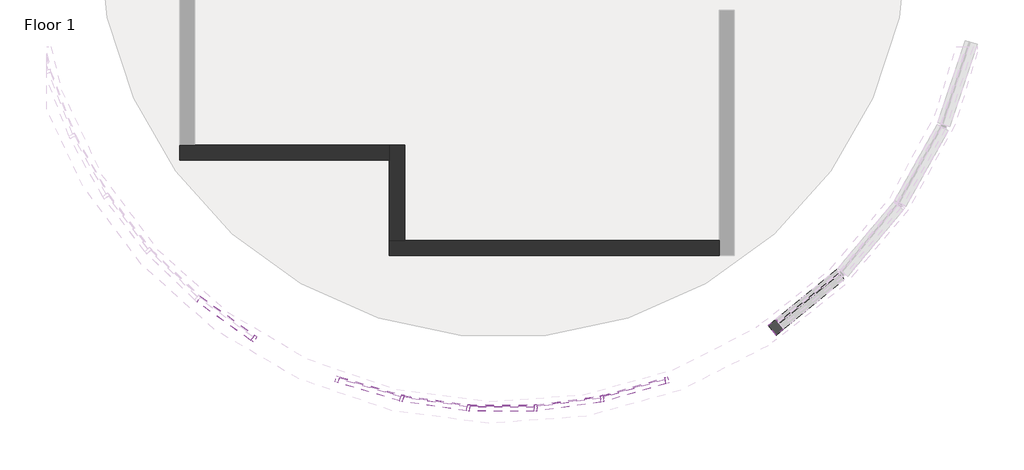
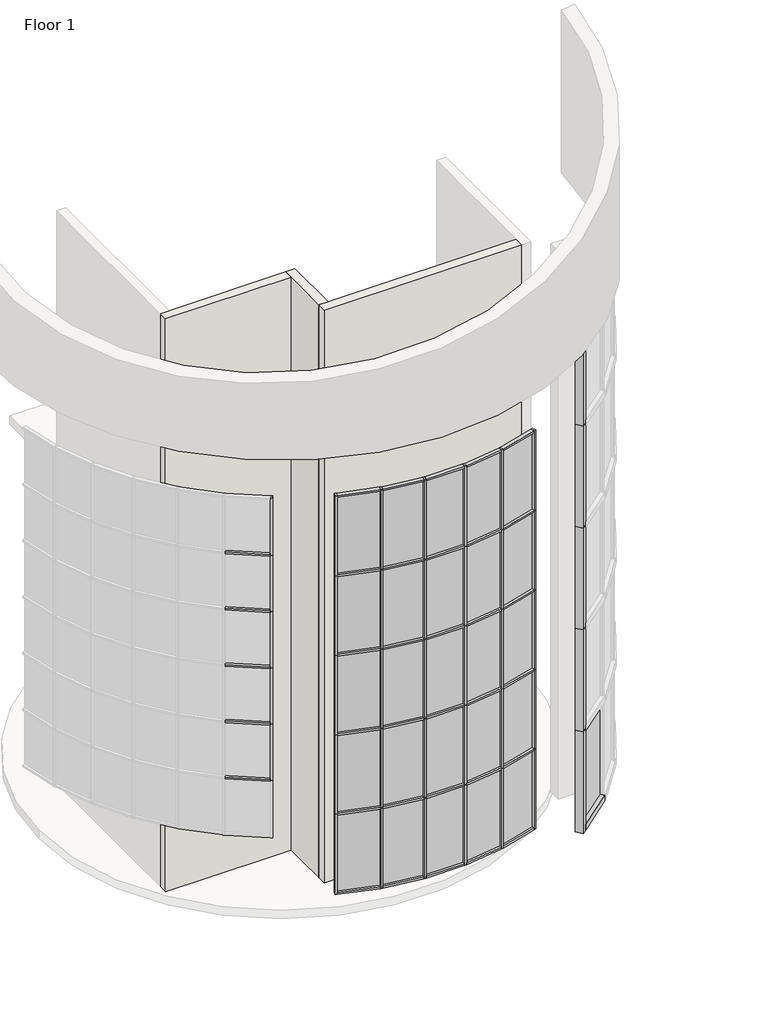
# One storey, part 5 of 11: 76 members, 26 plates, 3 walls.
"""IFC4 building model written with IfcOpenShell, lengths in millimetres."""

from ifc_helpers import new_model, si_unit, origin, place, context, project, spatial, faceted_brep, transform, mapped, element, save
from components import member_1ee05d72, member_0388ecb7, member_7395c1fc, member_652a6926, member_d66ac510, member_25577aa7, member_e54787da, member_d1cb1681, member_275a0903, member_ef0f639d, member_5da9506a, member_3a2f4316, member_60f5540e, member_ac1621ee, member_98c0bc9c, member_4370fb8a, system_panel_glazed_3a20483a, system_panel_glazed_3dc34c55, system_panel_glazed_36e52168

model = new_model("IFC4")

# Units and contexts
model_context = context("Model", 3, world=origin())
ifc_project = project(units=[si_unit("LENGTHUNIT", "METRE", prefix="MILLI")], contexts=[model_context])

# Site, building, storey
site = spatial("IfcSite", under=ifc_project)
building = spatial("IfcBuilding", under=site)
storey = spatial("IfcBuildingStorey", under=building, Name="Floor 1", Elevation=0.0)

# Members
placement = place(None, origin())
member_shape = member_1ee05d72(model_context)
element("IfcMember", 1, ObjectType="Rectangular Mullion1 : 2.5\" x 5\" rectangular", at=placement, inside=storey, context=model_context, shape_type="MappedRepresentation", body=[
    mapped(member_shape, transform((9626.5736728, 10239.6743059, 15849.6), x_axis=(0.0, 0.0, 1.0), y_axis=(0.2778402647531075, -0.9606272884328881, 0.0), z_axis=(0.9606272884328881, 0.2778402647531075, 0.0))),
])
element("IfcMember", 2, ObjectType="Rectangular Mullion1 : 2.5\" x 5\" rectangular", at=placement, inside=storey, context=model_context, shape_type="MappedRepresentation", body=[
    mapped(member_shape, transform((2992.9067416, 10256.328301, 1524.0), x_axis=(0.0, 0.0, -1.0), y_axis=(-0.2826600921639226, -0.9592201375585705, 0.0), z_axis=(-0.9592201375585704, 0.28266009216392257, 0.0))),
])
member_2_shape = member_0388ecb7(model_context)
element("IfcMember", 3, ObjectType="Rectangular Mullion1 : 2.5\" x 5\" rectangular", at=placement, inside=storey, context=model_context, shape_type="MappedRepresentation", body=[
    mapped(member_2_shape, transform((4242.5484, 9888.0876725, 15849.6), x_axis=(0.0, 0.0, 1.0), y_axis=(-0.2826600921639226, -0.9592201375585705, 0.0), z_axis=(0.9592201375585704, -0.28266009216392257, 0.0))),
])
member_3_shape = member_7395c1fc(model_context)
element("IfcMember", 4, ObjectType="Rectangular Mullion1 : 2.5\" x 5\" rectangular", at=placement, inside=storey, context=model_context, shape_type="MappedRepresentation", body=[
    mapped(member_3_shape, transform((5593.7638345, 9687.9803536, 15849.6), x_axis=(0.0, 0.0, 1.0), y_axis=(-0.1432223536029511, -0.9896905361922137, 0.0), z_axis=(0.9896905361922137, -0.1432223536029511, 0.0))),
])
element("IfcMember", 5, ObjectType="Rectangular Mullion1 : 2.5\" x 5\" rectangular", at=placement, inside=storey, context=model_context, shape_type="MappedRepresentation", body=[
    mapped(member_3_shape, transform((6959.7006673, 9680.082711, 15849.6), x_axis=(0.0, 0.0, 1.0), y_axis=(-0.0025105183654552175, -0.9999968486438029, 0.0), z_axis=(0.9999968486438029, -0.0025105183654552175, 0.0))),
])
element("IfcMember", 6, ObjectType="Rectangular Mullion1 : 2.5\" x 5\" rectangular", at=placement, inside=storey, context=model_context, shape_type="MappedRepresentation", body=[
    mapped(member_3_shape, transform((8313.1537957, 9864.5018892, 15849.6), x_axis=(0.0, 0.0, 1.0), y_axis=(0.13825129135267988, -0.9903971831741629, 0.0), z_axis=(0.9903971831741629, 0.13825129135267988, 0.0))),
])
element("IfcMember", 7, ObjectType="Rectangular Mullion1 : 2.5\" x 5\" rectangular", at=placement, inside=storey, context=model_context, shape_type="MappedRepresentation", body=[
    mapped(member_3_shape, transform((4304.4263139, 9874.5659049, 1524.0), x_axis=(0.0, 0.0, -1.0), y_axis=(-0.14322235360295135, -0.9896905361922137, 0.0), z_axis=(-0.9896905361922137, 0.14322235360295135, 0.0))),
])
element("IfcMember", 8, ObjectType="Rectangular Mullion1 : 2.5\" x 5\" rectangular", at=placement, inside=storey, context=model_context, shape_type="MappedRepresentation", body=[
    mapped(member_3_shape, transform((5656.9364089, 9683.3533349, 1524.0), x_axis=(0.0, 0.0, -1.0), y_axis=(-0.0025105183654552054, -0.9999968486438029, 0.0), z_axis=(-0.9999968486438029, 0.0025105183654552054, 0.0))),
])
element("IfcMember", 9, ObjectType="Rectangular Mullion1 : 2.5\" x 5\" rectangular", at=placement, inside=storey, context=model_context, shape_type="MappedRepresentation", body=[
    mapped(member_3_shape, transform((7022.8956778, 9684.3924805, 1524.0), x_axis=(0.0, 0.0, -1.0), y_axis=(0.13825129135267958, -0.990397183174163, 0.0), z_axis=(-0.990397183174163, -0.13825129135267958, 0.0))),
])
element("IfcMember", 10, ObjectType="Rectangular Mullion1 : 2.5\" x 5\" rectangular", at=placement, inside=storey, context=model_context, shape_type="MappedRepresentation", body=[
    mapped(member_2_shape, transform((8375.0988227, 9877.7127961, 1524.0), x_axis=(0.0, 0.0, -1.0), y_axis=(0.2778402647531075, -0.9606272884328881, 0.0), z_axis=(-0.9606272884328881, -0.2778402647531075, 0.0))),
])
member_4_shape = member_652a6926(model_context)
element("IfcMember", 11, ObjectType="Rectangular Mullion1 : 2.5\" x 5\" rectangular", at=placement, inside=storey, context=model_context, shape_type="MappedRepresentation", body=[
    mapped(member_4_shape, transform((4242.5484, 9888.0876725, 4408.17), x_axis=(0.0, 0.0, 1.0), y_axis=(-0.2826600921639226, -0.9592201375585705, 0.0), z_axis=(0.9592201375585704, -0.28266009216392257, 0.0))),
])
member_5_shape = member_d66ac510(model_context)
element("IfcMember", 12, ObjectType="Rectangular Mullion1 : 2.5\" x 5\" rectangular", at=placement, inside=storey, context=model_context, shape_type="MappedRepresentation", body=[
    mapped(member_5_shape, transform((5593.7638345, 9687.9803536, 4408.17), x_axis=(0.0, 0.0, 1.0), y_axis=(-0.14322235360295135, -0.9896905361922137, 0.0), z_axis=(0.9896905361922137, -0.14322235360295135, 0.0))),
])
element("IfcMember", 13, ObjectType="Rectangular Mullion1 : 2.5\" x 5\" rectangular", at=placement, inside=storey, context=model_context, shape_type="MappedRepresentation", body=[
    mapped(member_5_shape, transform((6959.7006673, 9680.082711, 4408.17), x_axis=(0.0, 0.0, 1.0), y_axis=(-0.0025105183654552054, -0.9999968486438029, 0.0), z_axis=(0.9999968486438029, -0.0025105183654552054, 0.0))),
])
element("IfcMember", 14, ObjectType="Rectangular Mullion1 : 2.5\" x 5\" rectangular", at=placement, inside=storey, context=model_context, shape_type="MappedRepresentation", body=[
    mapped(member_5_shape, transform((8313.1537957, 9864.5018892, 4408.17), x_axis=(0.0, 0.0, 1.0), y_axis=(0.13825129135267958, -0.990397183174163, 0.0), z_axis=(0.990397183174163, 0.13825129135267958, 0.0))),
])
member_6_shape = member_25577aa7(model_context)
element("IfcMember", 15, ObjectType="Rectangular Mullion1 : 2.5\" x 5\" rectangular", at=placement, inside=storey, context=model_context, shape_type="MappedRepresentation", body=[
    mapped(member_6_shape, transform((9626.5736728, 10239.6743059, 4408.17), x_axis=(0.0, 0.0, 1.0), y_axis=(0.2778402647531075, -0.9606272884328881, 0.0), z_axis=(0.9606272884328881, 0.2778402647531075, 0.0))),
])
element("IfcMember", 16, ObjectType="Rectangular Mullion1 : 2.5\" x 5\" rectangular", at=placement, inside=storey, context=model_context, shape_type="MappedRepresentation", body=[
    mapped(member_4_shape, transform((4242.5484, 9888.0876725, 7260.59), x_axis=(0.0, 0.0, 1.0), y_axis=(-0.2826600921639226, -0.9592201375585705, 0.0), z_axis=(0.9592201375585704, -0.28266009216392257, 0.0))),
])
element("IfcMember", 17, ObjectType="Rectangular Mullion1 : 2.5\" x 5\" rectangular", at=placement, inside=storey, context=model_context, shape_type="MappedRepresentation", body=[
    mapped(member_4_shape, transform((4242.5484, 9888.0876725, 10113.01), x_axis=(0.0, 0.0, 1.0), y_axis=(-0.2826600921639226, -0.9592201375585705, 0.0), z_axis=(0.9592201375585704, -0.28266009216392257, 0.0))),
])
element("IfcMember", 18, ObjectType="Rectangular Mullion1 : 2.5\" x 5\" rectangular", at=placement, inside=storey, context=model_context, shape_type="MappedRepresentation", body=[
    mapped(member_5_shape, transform((5593.7638345, 9687.9803536, 7260.59), x_axis=(0.0, 0.0, 1.0), y_axis=(-0.14322235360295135, -0.9896905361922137, 0.0), z_axis=(0.9896905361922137, -0.14322235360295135, 0.0))),
])
element("IfcMember", 19, ObjectType="Rectangular Mullion1 : 2.5\" x 5\" rectangular", at=placement, inside=storey, context=model_context, shape_type="MappedRepresentation", body=[
    mapped(member_5_shape, transform((6959.7006673, 9680.082711, 7260.59), x_axis=(0.0, 0.0, 1.0), y_axis=(-0.0025105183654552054, -0.9999968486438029, 0.0), z_axis=(0.9999968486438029, -0.0025105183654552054, 0.0))),
])
element("IfcMember", 20, ObjectType="Rectangular Mullion1 : 2.5\" x 5\" rectangular", at=placement, inside=storey, context=model_context, shape_type="MappedRepresentation", body=[
    mapped(member_5_shape, transform((8313.1537957, 9864.5018892, 7260.59), x_axis=(0.0, 0.0, 1.0), y_axis=(0.13825129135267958, -0.990397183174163, 0.0), z_axis=(0.990397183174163, 0.13825129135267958, 0.0))),
])
element("IfcMember", 21, ObjectType="Rectangular Mullion1 : 2.5\" x 5\" rectangular", at=placement, inside=storey, context=model_context, shape_type="MappedRepresentation", body=[
    mapped(member_5_shape, transform((5593.7638345, 9687.9803536, 10113.01), x_axis=(0.0, 0.0, 1.0), y_axis=(-0.14322235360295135, -0.9896905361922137, 0.0), z_axis=(0.9896905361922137, -0.14322235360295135, 0.0))),
])
element("IfcMember", 22, ObjectType="Rectangular Mullion1 : 2.5\" x 5\" rectangular", at=placement, inside=storey, context=model_context, shape_type="MappedRepresentation", body=[
    mapped(member_5_shape, transform((6959.7006673, 9680.082711, 10113.01), x_axis=(0.0, 0.0, 1.0), y_axis=(-0.0025105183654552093, -0.9999968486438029, 0.0), z_axis=(0.9999968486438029, -0.0025105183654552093, 0.0))),
])
element("IfcMember", 23, ObjectType="Rectangular Mullion1 : 2.5\" x 5\" rectangular", at=placement, inside=storey, context=model_context, shape_type="MappedRepresentation", body=[
    mapped(member_5_shape, transform((8313.1537957, 9864.5018892, 10113.01), x_axis=(0.0, 0.0, 1.0), y_axis=(0.13825129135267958, -0.990397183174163, 0.0), z_axis=(0.990397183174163, 0.13825129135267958, 0.0))),
])
element("IfcMember", 24, ObjectType="Rectangular Mullion1 : 2.5\" x 5\" rectangular", at=placement, inside=storey, context=model_context, shape_type="MappedRepresentation", body=[
    mapped(member_6_shape, transform((9626.5736728, 10239.6743059, 7260.59), x_axis=(0.0, 0.0, 1.0), y_axis=(0.2778402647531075, -0.9606272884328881, 0.0), z_axis=(0.9606272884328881, 0.2778402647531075, 0.0))),
])
element("IfcMember", 25, ObjectType="Rectangular Mullion1 : 2.5\" x 5\" rectangular", at=placement, inside=storey, context=model_context, shape_type="MappedRepresentation", body=[
    mapped(member_6_shape, transform((9626.5736728, 10239.6743059, 10113.01), x_axis=(0.0, 0.0, 1.0), y_axis=(0.2778402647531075, -0.9606272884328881, 0.0), z_axis=(0.9606272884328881, 0.2778402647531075, 0.0))),
])
element("IfcMember", 26, ObjectType="Rectangular Mullion1 : 2.5\" x 5\" rectangular", at=placement, inside=storey, context=model_context, shape_type="MappedRepresentation", body=[
    mapped(member_4_shape, transform((4242.5484, 9888.0876725, 12965.43), x_axis=(0.0, 0.0, 1.0), y_axis=(-0.2826600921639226, -0.9592201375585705, 0.0), z_axis=(0.9592201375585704, -0.28266009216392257, 0.0))),
])
element("IfcMember", 27, ObjectType="Rectangular Mullion1 : 2.5\" x 5\" rectangular", at=placement, inside=storey, context=model_context, shape_type="MappedRepresentation", body=[
    mapped(member_5_shape, transform((5593.7638345, 9687.9803536, 12965.43), x_axis=(0.0, 0.0, 1.0), y_axis=(-0.14322235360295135, -0.9896905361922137, 0.0), z_axis=(0.9896905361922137, -0.14322235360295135, 0.0))),
])
element("IfcMember", 28, ObjectType="Rectangular Mullion1 : 2.5\" x 5\" rectangular", at=placement, inside=storey, context=model_context, shape_type="MappedRepresentation", body=[
    mapped(member_5_shape, transform((6959.7006673, 9680.082711, 12965.43), x_axis=(0.0, 0.0, 1.0), y_axis=(-0.0025105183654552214, -0.9999968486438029, 0.0), z_axis=(0.9999968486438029, -0.0025105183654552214, 0.0))),
])
element("IfcMember", 29, ObjectType="Rectangular Mullion1 : 2.5\" x 5\" rectangular", at=placement, inside=storey, context=model_context, shape_type="MappedRepresentation", body=[
    mapped(member_5_shape, transform((8313.1537957, 9864.5018892, 12965.43), x_axis=(0.0, 0.0, 1.0), y_axis=(0.13825129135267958, -0.990397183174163, 0.0), z_axis=(0.990397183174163, 0.13825129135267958, 0.0))),
])
element("IfcMember", 30, ObjectType="Rectangular Mullion1 : 2.5\" x 5\" rectangular", at=placement, inside=storey, context=model_context, shape_type="MappedRepresentation", body=[
    mapped(member_6_shape, transform((9626.5736728, 10239.6743059, 12965.43), x_axis=(0.0, 0.0, 1.0), y_axis=(0.2778402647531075, -0.9606272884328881, 0.0), z_axis=(0.9606272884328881, 0.2778402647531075, 0.0))),
])
member_7_shape = member_e54787da(model_context)
element("IfcMember", 31, ObjectType="Rectangular Mullion1 : 2.5\" x 5\" rectangular", at=placement, inside=storey, context=model_context, shape_type="MappedRepresentation", body=[
    mapped(member_7_shape, transform((4273.0036394, 9879.1132146, 1524.0), x_axis=(0.9771213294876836, -0.21268264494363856, 0.0), y_axis=(-0.21268264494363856, -0.9771213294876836, 0.0), z_axis=(0.0, 0.0, -1.0))),
])
element("IfcMember", 32, ObjectType="Rectangular Mullion1 : 2.5\" x 5\" rectangular", at=placement, inside=storey, context=model_context, shape_type="MappedRepresentation", body=[
    mapped(member_7_shape, transform((5625.186509, 9683.4330439, 1524.0), x_axis=(0.9973283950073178, -0.07304842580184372, 0.0), y_axis=(-0.07304842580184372, -0.9973283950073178, 0.0), z_axis=(0.0, 0.0, -1.0))),
])
element("IfcMember", 33, ObjectType="Rectangular Mullion1 : 2.5\" x 5\" rectangular", at=placement, inside=storey, context=model_context, shape_type="MappedRepresentation", body=[
    mapped(member_7_shape, transform((6991.4505673, 9680.003002, 1524.0), x_axis=(0.9976826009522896, 0.06803989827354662, 0.0), y_axis=(0.06803989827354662, -0.9976826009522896, 0.0), z_axis=(0.0, 0.0, -1.0))),
])
element("IfcMember", 34, ObjectType="Rectangular Mullion1 : 2.5\" x 5\" rectangular", at=placement, inside=storey, context=model_context, shape_type="MappedRepresentation", body=[
    mapped(member_7_shape, transform((8344.5989063, 9868.8913677, 1524.0), x_axis=(0.9781768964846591, 0.20777381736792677, 0.0), y_axis=(0.20777381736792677, -0.9781768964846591, 0.0), z_axis=(0.0, 0.0, -1.0))),
])
member_8_shape = member_d1cb1681(model_context)
element("IfcMember", 35, ObjectType="Rectangular Mullion1 : 2.5\" x 5\" rectangular", at=placement, inside=storey, context=model_context, shape_type="MappedRepresentation", body=[
    mapped(member_8_shape, transform((4273.0036394, 9879.1132146, 4408.17), x_axis=(0.9771213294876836, -0.21268264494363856, 0.0), y_axis=(-0.21268264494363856, -0.9771213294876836, 0.0), z_axis=(0.0, 0.0, -1.0))),
])
element("IfcMember", 36, ObjectType="Rectangular Mullion1 : 2.5\" x 5\" rectangular", at=placement, inside=storey, context=model_context, shape_type="MappedRepresentation", body=[
    mapped(member_8_shape, transform((5625.186509, 9683.4330439, 4408.17), x_axis=(0.9973283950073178, -0.07304842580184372, 0.0), y_axis=(-0.07304842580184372, -0.9973283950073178, 0.0), z_axis=(0.0, 0.0, -1.0))),
])
element("IfcMember", 37, ObjectType="Rectangular Mullion1 : 2.5\" x 5\" rectangular", at=placement, inside=storey, context=model_context, shape_type="MappedRepresentation", body=[
    mapped(member_8_shape, transform((6991.4505673, 9680.003002, 4408.17), x_axis=(0.9976826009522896, 0.06803989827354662, 0.0), y_axis=(0.06803989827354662, -0.9976826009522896, 0.0), z_axis=(0.0, 0.0, -1.0))),
])
element("IfcMember", 38, ObjectType="Rectangular Mullion1 : 2.5\" x 5\" rectangular", at=placement, inside=storey, context=model_context, shape_type="MappedRepresentation", body=[
    mapped(member_8_shape, transform((8344.5989063, 9868.8913677, 4408.17), x_axis=(0.9781768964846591, 0.20777381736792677, 0.0), y_axis=(0.20777381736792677, -0.9781768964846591, 0.0), z_axis=(0.0, 0.0, -1.0))),
])
element("IfcMember", 39, ObjectType="Rectangular Mullion1 : 2.5\" x 5\" rectangular", at=placement, inside=storey, context=model_context, shape_type="MappedRepresentation", body=[
    mapped(member_8_shape, transform((4273.0036394, 9879.1132146, 7260.59), x_axis=(0.9771213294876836, -0.21268264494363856, 0.0), y_axis=(-0.21268264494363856, -0.9771213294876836, 0.0), z_axis=(0.0, 0.0, -1.0))),
])
element("IfcMember", 40, ObjectType="Rectangular Mullion1 : 2.5\" x 5\" rectangular", at=placement, inside=storey, context=model_context, shape_type="MappedRepresentation", body=[
    mapped(member_8_shape, transform((5625.186509, 9683.4330439, 7260.59), x_axis=(0.9973283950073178, -0.07304842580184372, 0.0), y_axis=(-0.07304842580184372, -0.9973283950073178, 0.0), z_axis=(0.0, 0.0, -1.0))),
])
element("IfcMember", 41, ObjectType="Rectangular Mullion1 : 2.5\" x 5\" rectangular", at=placement, inside=storey, context=model_context, shape_type="MappedRepresentation", body=[
    mapped(member_8_shape, transform((6991.4505673, 9680.003002, 7260.59), x_axis=(0.9976826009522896, 0.06803989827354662, 0.0), y_axis=(0.06803989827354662, -0.9976826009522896, 0.0), z_axis=(0.0, 0.0, -1.0))),
])
element("IfcMember", 42, ObjectType="Rectangular Mullion1 : 2.5\" x 5\" rectangular", at=placement, inside=storey, context=model_context, shape_type="MappedRepresentation", body=[
    mapped(member_8_shape, transform((8344.5989063, 9868.8913677, 7260.59), x_axis=(0.9781768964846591, 0.20777381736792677, 0.0), y_axis=(0.20777381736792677, -0.9781768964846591, 0.0), z_axis=(0.0, 0.0, -1.0))),
])
element("IfcMember", 43, ObjectType="Rectangular Mullion1 : 2.5\" x 5\" rectangular", at=placement, inside=storey, context=model_context, shape_type="MappedRepresentation", body=[
    mapped(member_8_shape, transform((4273.0036394, 9879.1132146, 10113.01), x_axis=(0.9771213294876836, -0.21268264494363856, 0.0), y_axis=(-0.21268264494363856, -0.9771213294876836, 0.0), z_axis=(0.0, 0.0, -1.0))),
])
element("IfcMember", 44, ObjectType="Rectangular Mullion1 : 2.5\" x 5\" rectangular", at=placement, inside=storey, context=model_context, shape_type="MappedRepresentation", body=[
    mapped(member_8_shape, transform((5625.186509, 9683.4330439, 10113.01), x_axis=(0.9973283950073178, -0.07304842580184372, 0.0), y_axis=(-0.07304842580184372, -0.9973283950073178, 0.0), z_axis=(0.0, 0.0, -1.0))),
])
element("IfcMember", 45, ObjectType="Rectangular Mullion1 : 2.5\" x 5\" rectangular", at=placement, inside=storey, context=model_context, shape_type="MappedRepresentation", body=[
    mapped(member_8_shape, transform((6991.4505673, 9680.003002, 10113.01), x_axis=(0.9976826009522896, 0.06803989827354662, 0.0), y_axis=(0.06803989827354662, -0.9976826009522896, 0.0), z_axis=(0.0, 0.0, -1.0))),
])
element("IfcMember", 46, ObjectType="Rectangular Mullion1 : 2.5\" x 5\" rectangular", at=placement, inside=storey, context=model_context, shape_type="MappedRepresentation", body=[
    mapped(member_8_shape, transform((8344.5989063, 9868.8913677, 10113.01), x_axis=(0.9781768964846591, 0.20777381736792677, 0.0), y_axis=(0.20777381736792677, -0.9781768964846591, 0.0), z_axis=(0.0, 0.0, -1.0))),
])
element("IfcMember", 47, ObjectType="Rectangular Mullion1 : 2.5\" x 5\" rectangular", at=placement, inside=storey, context=model_context, shape_type="MappedRepresentation", body=[
    mapped(member_7_shape, transform((4273.0036394, 9879.1132146, 12965.43), x_axis=(0.9771213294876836, -0.21268264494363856, 0.0), y_axis=(-0.21268264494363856, -0.9771213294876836, 0.0), z_axis=(0.0, 0.0, -1.0))),
])
element("IfcMember", 48, ObjectType="Rectangular Mullion1 : 2.5\" x 5\" rectangular", at=placement, inside=storey, context=model_context, shape_type="MappedRepresentation", body=[
    mapped(member_7_shape, transform((5625.186509, 9683.4330439, 12965.43), x_axis=(0.9973283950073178, -0.07304842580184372, 0.0), y_axis=(-0.07304842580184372, -0.9973283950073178, 0.0), z_axis=(0.0, 0.0, -1.0))),
])
element("IfcMember", 49, ObjectType="Rectangular Mullion1 : 2.5\" x 5\" rectangular", at=placement, inside=storey, context=model_context, shape_type="MappedRepresentation", body=[
    mapped(member_7_shape, transform((6991.4505673, 9680.003002, 12965.43), x_axis=(0.9976826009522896, 0.06803989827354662, 0.0), y_axis=(0.06803989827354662, -0.9976826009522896, 0.0), z_axis=(0.0, 0.0, -1.0))),
])
element("IfcMember", 50, ObjectType="Rectangular Mullion1 : 2.5\" x 5\" rectangular", at=placement, inside=storey, context=model_context, shape_type="MappedRepresentation", body=[
    mapped(member_7_shape, transform((8344.5989063, 9868.8913677, 12965.43), x_axis=(0.9781768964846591, 0.20777381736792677, 0.0), y_axis=(0.20777381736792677, -0.9781768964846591, 0.0), z_axis=(0.0, 0.0, -1.0))),
])
member_9_shape = member_275a0903(model_context)
element("IfcMember", 51, ObjectType="Rectangular Mullion1 : 2.5\" x 5\" rectangular", at=placement, inside=storey, context=model_context, shape_type="MappedRepresentation", body=[
    mapped(member_9_shape, transform((1235.4610146, 11112.8592493, 5710.7666667), x_axis=(0.0, 0.0, 1.0), y_axis=(-0.5828238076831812, -0.8125985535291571, 0.0), z_axis=(0.8125985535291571, -0.5828238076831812, 0.0))),
])
element("IfcMember", 52, ObjectType="Rectangular Mullion1 : 2.5\" x 5\" rectangular", at=placement, inside=storey, context=model_context, shape_type="MappedRepresentation", body=[
    mapped(member_9_shape, transform((1235.4610146, 11112.8592493, 7732.1833333), x_axis=(0.0, 0.0, 1.0), y_axis=(-0.5828238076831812, -0.8125985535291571, 0.0), z_axis=(0.8125985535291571, -0.5828238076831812, 0.0))),
])
element("IfcMember", 53, ObjectType="Rectangular Mullion1 : 2.5\" x 5\" rectangular", at=placement, inside=storey, context=model_context, shape_type="MappedRepresentation", body=[
    mapped(member_9_shape, transform((1235.4610146, 11112.8592493, 9753.6), x_axis=(0.0, 0.0, 1.0), y_axis=(-0.5828238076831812, -0.8125985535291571, 0.0), z_axis=(0.8125985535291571, -0.5828238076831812, 0.0))),
])
element("IfcMember", 54, ObjectType="Rectangular Mullion1 : 2.5\" x 5\" rectangular", at=placement, inside=storey, context=model_context, shape_type="MappedRepresentation", body=[
    mapped(member_9_shape, transform((1235.4610146, 11112.8592493, 11775.0166667), x_axis=(0.0, 0.0, 1.0), y_axis=(-0.5828238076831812, -0.8125985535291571, 0.0), z_axis=(0.8125985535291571, -0.5828238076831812, 0.0))),
])
element("IfcMember", 55, ObjectType="Rectangular Mullion1 : 2.5\" x 5\" rectangular", at=placement, inside=storey, context=model_context, shape_type="MappedRepresentation", body=[
    mapped(member_9_shape, transform((1235.4610146, 11112.8592493, 13796.4333333), x_axis=(0.0, 0.0, 1.0), y_axis=(-0.5828238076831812, -0.8125985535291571, 0.0), z_axis=(0.8125985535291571, -0.5828238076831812, 0.0))),
])
member_10_shape = member_ef0f639d(model_context)
element("IfcMember", 56, ObjectType="Rectangular Mullion1 : 2.5\" x 5\" rectangular", at=placement, inside=storey, context=model_context, shape_type="MappedRepresentation", body=[
    mapped(member_10_shape, transform((9687.5735056, 10257.3171627, 1524.0), x_axis=(0.9606272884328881, 0.2778402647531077, 0.0), y_axis=(0.2778402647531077, -0.9606272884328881, 0.0), z_axis=(0.0, 0.0, -1.0))),
])
element("IfcMember", 57, ObjectType="Rectangular Mullion1 : 2.5\" x 5\" rectangular", at=placement, inside=storey, context=model_context, shape_type="MappedRepresentation", body=[
    mapped(member_10_shape, transform((2931.9962628, 10274.2772169, 15849.6), x_axis=(-0.9592201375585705, 0.2826600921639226, 0.0), y_axis=(-0.2826600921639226, -0.9592201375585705, 0.0), z_axis=(0.0, 0.0, 1.0))),
])
member_11_shape = member_5da9506a(model_context)
element("IfcMember", 58, ObjectType="Rectangular Mullion1 : 2.5\" x 5\" rectangular", at=placement, inside=storey, context=model_context, shape_type="MappedRepresentation", body=[
    mapped(member_11_shape, transform((9687.5735056, 10257.3171627, 4408.17), x_axis=(0.9606272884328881, 0.27784026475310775, 0.0), y_axis=(0.27784026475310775, -0.9606272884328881, 0.0), z_axis=(0.0, 0.0, -1.0))),
])
element("IfcMember", 59, ObjectType="Rectangular Mullion1 : 2.5\" x 5\" rectangular", at=placement, inside=storey, context=model_context, shape_type="MappedRepresentation", body=[
    mapped(member_11_shape, transform((9687.5735056, 10257.3171627, 7260.59), x_axis=(0.9606272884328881, 0.27784026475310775, 0.0), y_axis=(0.27784026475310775, -0.9606272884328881, 0.0), z_axis=(0.0, 0.0, -1.0))),
])
element("IfcMember", 60, ObjectType="Rectangular Mullion1 : 2.5\" x 5\" rectangular", at=placement, inside=storey, context=model_context, shape_type="MappedRepresentation", body=[
    mapped(member_11_shape, transform((9687.5735056, 10257.3171627, 10113.01), x_axis=(0.9606272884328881, 0.27784026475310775, 0.0), y_axis=(0.27784026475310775, -0.9606272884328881, 0.0), z_axis=(0.0, 0.0, -1.0))),
])
element("IfcMember", 61, ObjectType="Rectangular Mullion1 : 2.5\" x 5\" rectangular", at=placement, inside=storey, context=model_context, shape_type="MappedRepresentation", body=[
    mapped(member_10_shape, transform((9687.5735056, 10257.3171627, 12965.43), x_axis=(0.9606272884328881, 0.2778402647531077, 0.0), y_axis=(0.2778402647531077, -0.9606272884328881, 0.0), z_axis=(0.0, 0.0, -1.0))),
])
element("IfcMember", 62, ObjectType="Rectangular Mullion1 : 2.5\" x 5\" rectangular", at=placement, inside=storey, context=model_context, shape_type="MappedRepresentation", body=[
    mapped(member_10_shape, transform((2931.9962628, 10274.2772169, 4408.17), x_axis=(-0.9592201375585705, 0.2826600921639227, 0.0), y_axis=(-0.2826600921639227, -0.9592201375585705, 0.0), z_axis=(0.0, 0.0, 1.0))),
])
element("IfcMember", 63, ObjectType="Rectangular Mullion1 : 2.5\" x 5\" rectangular", at=placement, inside=storey, context=model_context, shape_type="MappedRepresentation", body=[
    mapped(member_11_shape, transform((2931.9962628, 10274.2772169, 7260.59), x_axis=(-0.9592201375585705, 0.2826600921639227, 0.0), y_axis=(-0.2826600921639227, -0.9592201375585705, 0.0), z_axis=(0.0, 0.0, 1.0))),
])
element("IfcMember", 64, ObjectType="Rectangular Mullion1 : 2.5\" x 5\" rectangular", at=placement, inside=storey, context=model_context, shape_type="MappedRepresentation", body=[
    mapped(member_11_shape, transform((2931.9962628, 10274.2772169, 10113.01), x_axis=(-0.9592201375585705, 0.2826600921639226, 0.0), y_axis=(-0.2826600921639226, -0.9592201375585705, 0.0), z_axis=(0.0, 0.0, 1.0))),
])
element("IfcMember", 65, ObjectType="Rectangular Mullion1 : 2.5\" x 5\" rectangular", at=placement, inside=storey, context=model_context, shape_type="MappedRepresentation", body=[
    mapped(member_11_shape, transform((2931.9962628, 10274.2772169, 12965.43), x_axis=(-0.9592201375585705, 0.2826600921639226, 0.0), y_axis=(-0.2826600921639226, -0.9592201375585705, 0.0), z_axis=(0.0, 0.0, 1.0))),
])
member_12_shape = member_3a2f4316(model_context)
element("IfcMember", 66, ObjectType="Rectangular Mullion1 : 2.5\" x 5\" rectangular", at=placement, inside=storey, context=model_context, shape_type="MappedRepresentation", body=[
    mapped(member_12_shape, transform((1287.0610227, 11075.8499375, 5710.7666667), x_axis=(0.8125985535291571, -0.5828238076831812, 0.0), y_axis=(-0.5828238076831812, -0.8125985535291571, 0.0), z_axis=(0.0, 0.0, -1.0))),
])
element("IfcMember", 67, ObjectType="Rectangular Mullion1 : 2.5\" x 5\" rectangular", at=placement, inside=storey, context=model_context, shape_type="MappedRepresentation", body=[
    mapped(member_12_shape, transform((1287.0610227, 11075.8499375, 7732.1833333), x_axis=(0.8125985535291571, -0.5828238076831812, 0.0), y_axis=(-0.5828238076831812, -0.8125985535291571, 0.0), z_axis=(0.0, 0.0, -1.0))),
])
element("IfcMember", 68, ObjectType="Rectangular Mullion1 : 2.5\" x 5\" rectangular", at=placement, inside=storey, context=model_context, shape_type="MappedRepresentation", body=[
    mapped(member_12_shape, transform((1287.0610227, 11075.8499375, 9753.6), x_axis=(0.812598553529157, -0.5828238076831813, 0.0), y_axis=(-0.5828238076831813, -0.812598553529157, 0.0), z_axis=(0.0, 0.0, -1.0))),
])
element("IfcMember", 69, ObjectType="Rectangular Mullion1 : 2.5\" x 5\" rectangular", at=placement, inside=storey, context=model_context, shape_type="MappedRepresentation", body=[
    mapped(member_12_shape, transform((1287.0610227, 11075.8499375, 11775.0166667), x_axis=(0.8125985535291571, -0.5828238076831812, 0.0), y_axis=(-0.5828238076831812, -0.8125985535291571, 0.0), z_axis=(0.0, 0.0, -1.0))),
])
member_13_shape = member_60f5540e(model_context)
element("IfcMember", 70, ObjectType="Rectangular Mullion1 : 2.5\" x 5\" rectangular", at=placement, inside=storey, context=model_context, shape_type="MappedRepresentation", body=[
    mapped(member_13_shape, transform((1287.0610227, 11075.8499375, 13796.4333333), x_axis=(0.8125985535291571, -0.5828238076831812, 0.0), y_axis=(-0.5828238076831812, -0.8125985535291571, 0.0), z_axis=(0.0, 0.0, -1.0))),
])
member_14_shape = member_ac1621ee(model_context)
element("IfcMember", 71, ObjectType="Rectangular Mullion1 : 8\" x 10\" rectangular", at=placement, inside=storey, context=model_context, shape_type="MappedRepresentation", body=[
    mapped(member_14_shape, transform((11956.7860611, 11392.3328441, 0.0), x_axis=(0.0, 0.0, -1.0), y_axis=(0.6325919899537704, -0.7744852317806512, 0.0), z_axis=(-0.7744852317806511, -0.6325919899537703, 0.0))),
])
member_15_shape = member_98c0bc9c(model_context)
element("IfcMember", 72, ObjectType="Rectangular Mullion1 : 8\" x 10\" rectangular", at=placement, inside=storey, context=model_context, shape_type="MappedRepresentation", body=[
    mapped(member_15_shape, transform((11799.410662, 11263.7901518, 14630.4), x_axis=(-0.7744852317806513, -0.6325919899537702, 0.0), y_axis=(0.6325919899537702, -0.7744852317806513, 0.0), z_axis=(0.0, 0.0, 1.0))),
])
element("IfcMember", 73, ObjectType="Rectangular Mullion1 : 8\" x 10\" rectangular", at=placement, inside=storey, context=model_context, shape_type="MappedRepresentation", body=[
    mapped(member_15_shape, transform((11799.410662, 11263.7901518, 10972.8), x_axis=(-0.7744852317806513, -0.6325919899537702, 0.0), y_axis=(0.6325919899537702, -0.7744852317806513, 0.0), z_axis=(0.0, 0.0, 1.0))),
])
element("IfcMember", 74, ObjectType="Rectangular Mullion1 : 8\" x 10\" rectangular", at=placement, inside=storey, context=model_context, shape_type="MappedRepresentation", body=[
    mapped(member_15_shape, transform((11799.410662, 11263.7901518, 7315.2), x_axis=(-0.7744852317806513, -0.6325919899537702, 0.0), y_axis=(0.6325919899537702, -0.7744852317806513, 0.0), z_axis=(0.0, 0.0, 1.0))),
])
element("IfcMember", 75, ObjectType="Rectangular Mullion1 : 8\" x 10\" rectangular", at=placement, inside=storey, context=model_context, shape_type="MappedRepresentation", body=[
    mapped(member_15_shape, transform((11799.410662, 11263.7901518, 3657.6), x_axis=(-0.7744852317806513, -0.6325919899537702, 0.0), y_axis=(0.6325919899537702, -0.7744852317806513, 0.0), z_axis=(0.0, 0.0, 1.0))),
])
member_16_shape = member_4370fb8a(model_context)
element("IfcMember", 76, ObjectType="Rectangular Mullion1 : 8\" x 10\" rectangular", at=placement, inside=storey, context=model_context, shape_type="MappedRepresentation", body=[
    mapped(member_16_shape, transform((11799.410662, 11263.7901518, 17373.6), x_axis=(-0.7744852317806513, -0.6325919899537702, 0.0), y_axis=(0.6325919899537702, -0.7744852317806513, 0.0), z_axis=(0.0, 0.0, 1.0))),
])

# Plates
system_panel_glazed_shape = system_panel_glazed_3a20483a(model_context)
element("IfcPlate", 77, ObjectType="System Panel : Glazed", at=placement, inside=storey, context=model_context, shape_type="MappedRepresentation", body=[
    mapped(system_panel_glazed_shape, transform((3617.7275708, 10072.2079868, 1587.5), x_axis=(0.9592201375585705, -0.2826600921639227, 0.0), y_axis=(0.2826600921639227, 0.9592201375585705, 0.0), z_axis=(0.0, 0.0, 1.0))),
])
element("IfcPlate", 78, ObjectType="System Panel : Glazed", at=placement, inside=storey, context=model_context, shape_type="MappedRepresentation", body=[
    mapped(system_panel_glazed_shape, transform((9000.8362478, 10058.693551, 1587.5), x_axis=(0.9606272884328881, 0.2778402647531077, 0.0), y_axis=(-0.2778402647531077, 0.9606272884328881, 0.0), z_axis=(0.0, 0.0, 1.0))),
])
element("IfcPlate", 79, ObjectType="System Panel : Glazed", at=placement, inside=storey, context=model_context, shape_type="MappedRepresentation", body=[
    mapped(system_panel_glazed_shape, transform((3617.7275708, 10072.2079868, 4439.92), x_axis=(0.9592201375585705, -0.2826600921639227, 0.0), y_axis=(0.2826600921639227, 0.9592201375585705, 0.0), z_axis=(0.0, 0.0, 1.0))),
])
element("IfcPlate", 80, ObjectType="System Panel : Glazed", at=placement, inside=storey, context=model_context, shape_type="MappedRepresentation", body=[
    mapped(system_panel_glazed_shape, transform((9000.8362478, 10058.693551, 4439.92), x_axis=(0.9606272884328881, 0.27784026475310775, 0.0), y_axis=(-0.27784026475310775, 0.9606272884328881, 0.0), z_axis=(0.0, 0.0, 1.0))),
])
element("IfcPlate", 81, ObjectType="System Panel : Glazed", at=placement, inside=storey, context=model_context, shape_type="MappedRepresentation", body=[
    mapped(system_panel_glazed_shape, transform((3617.7275708, 10072.2079868, 7292.34), x_axis=(0.9592201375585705, -0.2826600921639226, 0.0), y_axis=(0.2826600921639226, 0.9592201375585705, 0.0), z_axis=(0.0, 0.0, 1.0))),
])
element("IfcPlate", 82, ObjectType="System Panel : Glazed", at=placement, inside=storey, context=model_context, shape_type="MappedRepresentation", body=[
    mapped(system_panel_glazed_shape, transform((9000.8362478, 10058.693551, 7292.34), x_axis=(0.9606272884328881, 0.27784026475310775, 0.0), y_axis=(-0.27784026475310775, 0.9606272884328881, 0.0), z_axis=(0.0, 0.0, 1.0))),
])
element("IfcPlate", 83, ObjectType="System Panel : Glazed", at=placement, inside=storey, context=model_context, shape_type="MappedRepresentation", body=[
    mapped(system_panel_glazed_shape, transform((3617.7275708, 10072.2079868, 10144.76), x_axis=(0.9592201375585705, -0.2826600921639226, 0.0), y_axis=(0.2826600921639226, 0.9592201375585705, 0.0), z_axis=(0.0, 0.0, 1.0))),
])
element("IfcPlate", 84, ObjectType="System Panel : Glazed", at=placement, inside=storey, context=model_context, shape_type="MappedRepresentation", body=[
    mapped(system_panel_glazed_shape, transform((9000.8362478, 10058.693551, 10144.76), x_axis=(0.9606272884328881, 0.27784026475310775, 0.0), y_axis=(-0.27784026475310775, 0.9606272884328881, 0.0), z_axis=(0.0, 0.0, 1.0))),
])
element("IfcPlate", 85, ObjectType="System Panel : Glazed", at=placement, inside=storey, context=model_context, shape_type="MappedRepresentation", body=[
    mapped(system_panel_glazed_shape, transform((3617.7275708, 10072.2079868, 12997.18), x_axis=(0.9592201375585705, -0.2826600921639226, 0.0), y_axis=(0.2826600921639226, 0.9592201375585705, 0.0), z_axis=(0.0, 0.0, 1.0))),
])
element("IfcPlate", 86, ObjectType="System Panel : Glazed", at=placement, inside=storey, context=model_context, shape_type="MappedRepresentation", body=[
    mapped(system_panel_glazed_shape, transform((9000.8362478, 10058.693551, 12997.18), x_axis=(0.9606272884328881, 0.2778402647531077, 0.0), y_axis=(-0.2778402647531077, 0.9606272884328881, 0.0), z_axis=(0.0, 0.0, 1.0))),
])
system_panel_glazed_2_shape = system_panel_glazed_3dc34c55(model_context)
element("IfcPlate", 87, ObjectType="System Panel : Glazed", at=placement, inside=storey, context=model_context, shape_type="MappedRepresentation", body=[
    mapped(system_panel_glazed_2_shape, transform((12573.9927082, 11896.4612188, 203.2), x_axis=(0.7744852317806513, 0.6325919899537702, 0.0), y_axis=(-0.6325919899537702, 0.7744852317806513, 0.0), z_axis=(0.0, 0.0, 1.0))),
])
system_panel_glazed_3_shape = system_panel_glazed_36e52168(model_context)
element("IfcPlate", 88, ObjectType="System Panel : Glazed", at=placement, inside=storey, context=model_context, shape_type="MappedRepresentation", body=[
    mapped(system_panel_glazed_3_shape, transform((4949.0950742, 9781.2731292, 1587.5), x_axis=(0.9896905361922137, -0.14322235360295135, 0.0), y_axis=(0.14322235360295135, 0.9896905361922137, 0.0), z_axis=(0.0, 0.0, 1.0))),
])
element("IfcPlate", 89, ObjectType="System Panel : Glazed", at=placement, inside=storey, context=model_context, shape_type="MappedRepresentation", body=[
    mapped(system_panel_glazed_3_shape, transform((6308.3185381, 9681.7180229, 1587.5), x_axis=(0.9999968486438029, -0.0025105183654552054, 0.0), y_axis=(0.0025105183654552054, 0.9999968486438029, 0.0), z_axis=(0.0, 0.0, 1.0))),
])
element("IfcPlate", 90, ObjectType="System Panel : Glazed", at=placement, inside=storey, context=model_context, shape_type="MappedRepresentation", body=[
    mapped(system_panel_glazed_3_shape, transform((7668.0247368, 9774.4471849, 1587.5), x_axis=(0.990397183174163, 0.13825129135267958, 0.0), y_axis=(-0.13825129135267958, 0.990397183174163, 0.0), z_axis=(0.0, 0.0, 1.0))),
])
element("IfcPlate", 91, ObjectType="System Panel : Glazed", at=placement, inside=storey, context=model_context, shape_type="MappedRepresentation", body=[
    mapped(system_panel_glazed_3_shape, transform((4949.0950742, 9781.2731292, 4439.92), x_axis=(0.9896905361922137, -0.14322235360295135, 0.0), y_axis=(0.14322235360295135, 0.9896905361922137, 0.0), z_axis=(0.0, 0.0, 1.0))),
])
element("IfcPlate", 92, ObjectType="System Panel : Glazed", at=placement, inside=storey, context=model_context, shape_type="MappedRepresentation", body=[
    mapped(system_panel_glazed_3_shape, transform((6308.3185381, 9681.7180229, 4439.92), x_axis=(0.9999968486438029, -0.0025105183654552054, 0.0), y_axis=(0.0025105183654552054, 0.9999968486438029, 0.0), z_axis=(0.0, 0.0, 1.0))),
])
element("IfcPlate", 93, ObjectType="System Panel : Glazed", at=placement, inside=storey, context=model_context, shape_type="MappedRepresentation", body=[
    mapped(system_panel_glazed_3_shape, transform((7668.0247368, 9774.4471849, 4439.92), x_axis=(0.990397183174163, 0.13825129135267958, 0.0), y_axis=(-0.13825129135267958, 0.990397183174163, 0.0), z_axis=(0.0, 0.0, 1.0))),
])
element("IfcPlate", 94, ObjectType="System Panel : Glazed", at=placement, inside=storey, context=model_context, shape_type="MappedRepresentation", body=[
    mapped(system_panel_glazed_3_shape, transform((4949.0950742, 9781.2731292, 7292.34), x_axis=(0.9896905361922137, -0.14322235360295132, 0.0), y_axis=(0.14322235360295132, 0.9896905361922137, 0.0), z_axis=(0.0, 0.0, 1.0))),
])
element("IfcPlate", 95, ObjectType="System Panel : Glazed", at=placement, inside=storey, context=model_context, shape_type="MappedRepresentation", body=[
    mapped(system_panel_glazed_3_shape, transform((6308.3185381, 9681.7180229, 7292.34), x_axis=(0.9999968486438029, -0.002510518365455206, 0.0), y_axis=(0.002510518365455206, 0.9999968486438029, 0.0), z_axis=(0.0, 0.0, 1.0))),
])
element("IfcPlate", 96, ObjectType="System Panel : Glazed", at=placement, inside=storey, context=model_context, shape_type="MappedRepresentation", body=[
    mapped(system_panel_glazed_3_shape, transform((7668.0247368, 9774.4471849, 7292.34), x_axis=(0.990397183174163, 0.13825129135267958, 0.0), y_axis=(-0.13825129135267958, 0.990397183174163, 0.0), z_axis=(0.0, 0.0, 1.0))),
])
element("IfcPlate", 97, ObjectType="System Panel : Glazed", at=placement, inside=storey, context=model_context, shape_type="MappedRepresentation", body=[
    mapped(system_panel_glazed_3_shape, transform((4949.0950742, 9781.2731292, 10144.76), x_axis=(0.9896905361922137, -0.14322235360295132, 0.0), y_axis=(0.14322235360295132, 0.9896905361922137, 0.0), z_axis=(0.0, 0.0, 1.0))),
])
element("IfcPlate", 98, ObjectType="System Panel : Glazed", at=placement, inside=storey, context=model_context, shape_type="MappedRepresentation", body=[
    mapped(system_panel_glazed_3_shape, transform((6308.3185381, 9681.7180229, 10144.76), x_axis=(0.9999968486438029, -0.002510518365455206, 0.0), y_axis=(0.002510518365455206, 0.9999968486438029, 0.0), z_axis=(0.0, 0.0, 1.0))),
])
element("IfcPlate", 99, ObjectType="System Panel : Glazed", at=placement, inside=storey, context=model_context, shape_type="MappedRepresentation", body=[
    mapped(system_panel_glazed_3_shape, transform((7668.0247368, 9774.4471849, 10144.76), x_axis=(0.990397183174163, 0.13825129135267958, 0.0), y_axis=(-0.13825129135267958, 0.990397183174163, 0.0), z_axis=(0.0, 0.0, 1.0))),
])
element("IfcPlate", 100, ObjectType="System Panel : Glazed", at=placement, inside=storey, context=model_context, shape_type="MappedRepresentation", body=[
    mapped(system_panel_glazed_3_shape, transform((4949.0950742, 9781.2731292, 12997.18), x_axis=(0.9896905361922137, -0.14322235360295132, 0.0), y_axis=(0.14322235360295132, 0.9896905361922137, 0.0), z_axis=(0.0, 0.0, 1.0))),
])
element("IfcPlate", 101, ObjectType="System Panel : Glazed", at=placement, inside=storey, context=model_context, shape_type="MappedRepresentation", body=[
    mapped(system_panel_glazed_3_shape, transform((6308.3185381, 9681.7180229, 12997.18), x_axis=(0.9999968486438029, -0.0025105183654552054, 0.0), y_axis=(0.0025105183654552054, 0.9999968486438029, 0.0), z_axis=(0.0, 0.0, 1.0))),
])
element("IfcPlate", 102, ObjectType="System Panel : Glazed", at=placement, inside=storey, context=model_context, shape_type="MappedRepresentation", body=[
    mapped(system_panel_glazed_3_shape, transform((7668.0247368, 9774.4471849, 12997.18), x_axis=(0.990397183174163, 0.13825129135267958, 0.0), y_axis=(-0.13825129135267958, 0.990397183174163, 0.0), z_axis=(0.0, 0.0, 1.0))),
])

# Walls
element("IfcWall", 103, ObjectType="a_Mtl panel on Mtl stud", at=placement, inside=storey, context=model_context, shape_type="Brep", body=[
    faceted_brep([(10723.2526119, 13096.086889, 0.0), (4328.8026119, 13096.086889, 0.0), (4017.6526119, 13096.086889, 0.0), (4017.6526119, 13096.086889, 20574.0), (4328.8026119, 13096.086889, 20574.0), (10723.2526119, 13096.086889, 20574.0), (10723.2526119, 12784.936889, 0.0), (10723.2526119, 12784.936889, 20574.0), (4017.6526119, 12784.936889, 20574.0), (4017.6526119, 12784.936889, 0.0)], [[[0, 1, 2, 3, 4, 5]], [[6, 7, 8, 9]], [[2, 1, 0, 6, 9]], [[5, 4, 3, 8, 7]], [[3, 2, 9, 8]], [[0, 5, 7, 6]]]),
])
element("IfcWall", 104, ObjectType="a_Mtl panel on Mtl stud", at=placement, inside=storey, context=model_context, shape_type="Brep", body=[
    faceted_brep([(4328.8026119, 13096.086889, 0.0), (4328.8026119, 15038.5267299, 0.0), (4328.8026119, 15038.5267299, 20574.0), (4328.8026119, 13096.086889, 20574.0), (4017.6526119, 13096.086889, 0.0), (4017.6526119, 13096.086889, 20574.0), (4017.6526119, 14727.3767299, 20574.0), (4017.6526119, 15038.5267299, 20574.0), (4017.6526119, 15038.5267299, 0.0), (4017.6526119, 14727.3767299, 0.0)], [[[0, 1, 2, 3]], [[4, 5, 6, 7, 8, 9]], [[1, 0, 4, 9, 8]], [[3, 2, 7, 6, 5]], [[2, 1, 8, 7]], [[0, 3, 5, 4]]]),
])
element("IfcWall", 105, ObjectType="a_Mtl panel on Mtl stud", at=placement, inside=storey, context=model_context, shape_type="Brep", body=[
    faceted_brep([(4017.6526119, 15038.5267299, 0.0), (61.6026119, 15038.5267299, 0.0), (-249.5473881, 15038.5267299, 0.0), (-249.5473881, 15038.5267299, 20574.0), (61.6026119, 15038.5267299, 20574.0), (4017.6526119, 15038.5267299, 20574.0), (4017.6526119, 14727.3767299, 0.0), (4017.6526119, 14727.3767299, 20574.0), (-249.5473881, 14727.3767299, 20574.0), (-249.5473881, 14727.3767299, 0.0)], [[[0, 1, 2, 3, 4, 5]], [[6, 7, 8, 9]], [[2, 1, 0, 6, 9]], [[5, 4, 3, 8, 7]], [[3, 2, 9, 8]], [[0, 5, 7, 6]]]),
])

save(model, "model.ifc")
